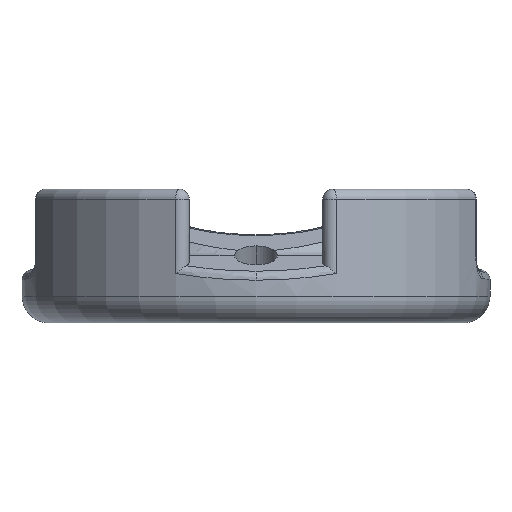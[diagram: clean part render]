
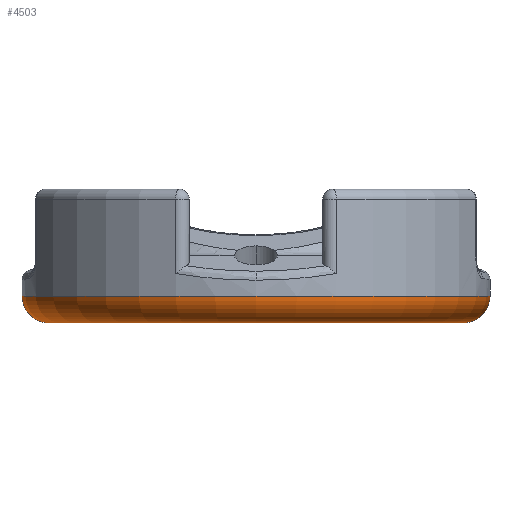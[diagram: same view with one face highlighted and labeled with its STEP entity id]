
A CAD part, front view. The second image highlights one B-rep face of the part: STEP entity #4503.
In plain terms, the highlighted toroidal (fillet/blend) face has major radius 15.5 mm and minor radius 2 mm.
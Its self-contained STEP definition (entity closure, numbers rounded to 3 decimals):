
#99 = AXIS2_PLACEMENT_3D ( 'NONE', #1359, #4085, #4472 ) ;
#149 = CIRCLE ( 'NONE', #4744, 2. ) ;
#240 = CARTESIAN_POINT ( 'NONE',  ( -17.5, 0., 7. ) ) ;
#263 = ORIENTED_EDGE ( 'NONE', *, *, #2308, .F. ) ;
#274 = CARTESIAN_POINT ( 'NONE',  ( 17.5, 0., 7. ) ) ;
#289 = CARTESIAN_POINT ( 'NONE',  ( 15.5, 0., 7. ) ) ;
#540 = VERTEX_POINT ( 'NONE', #274 ) ;
#556 = CARTESIAN_POINT ( 'NONE',  ( 0., 0., 5. ) ) ;
#677 = DIRECTION ( 'NONE',  ( -1., 0., 0. ) ) ;
#785 = CARTESIAN_POINT ( 'NONE',  ( -15.5, 0., 5. ) ) ;
#955 = DIRECTION ( 'NONE',  ( -1., 0., 0. ) ) ;
#1236 = ORIENTED_EDGE ( 'NONE', *, *, #2671, .T. ) ;
#1359 = CARTESIAN_POINT ( 'NONE',  ( 0., 0., 7. ) ) ;
#1551 = AXIS2_PLACEMENT_3D ( 'NONE', #2298, #5022, #2691 ) ;
#1960 = EDGE_CURVE ( 'NONE', #4374, #2448, #2116, .T. ) ;
#2116 = CIRCLE ( 'NONE', #4260, 15.5 ) ;
#2198 = FACE_OUTER_BOUND ( 'NONE', #3023, .T. ) ;
#2221 = DIRECTION ( 'NONE',  ( 0., -1., 0. ) ) ;
#2298 = CARTESIAN_POINT ( 'NONE',  ( 0., 0., 7. ) ) ;
#2308 = EDGE_CURVE ( 'NONE', #540, #4374, #3103, .T. ) ;
#2448 = VERTEX_POINT ( 'NONE', #785 ) ;
#2671 = EDGE_CURVE ( 'NONE', #3366, #2448, #149, .T. ) ;
#2691 = DIRECTION ( 'NONE',  ( -1., 0., 0. ) ) ;
#2815 = CARTESIAN_POINT ( 'NONE',  ( 15.5, 0., 5. ) ) ;
#3022 = DIRECTION ( 'NONE',  ( 0., 1., 0. ) ) ;
#3023 = EDGE_LOOP ( 'NONE', ( #263, #3608, #1236, #4983 ) ) ;
#3103 = CIRCLE ( 'NONE', #3535, 2. ) ;
#3225 = TOROIDAL_SURFACE ( 'NONE', #99, 15.5, 2. ) ;
#3297 = DIRECTION ( 'NONE',  ( 0., 0., -1. ) ) ;
#3366 = VERTEX_POINT ( 'NONE', #240 ) ;
#3535 = AXIS2_PLACEMENT_3D ( 'NONE', #289, #3022, #677 ) ;
#3608 = ORIENTED_EDGE ( 'NONE', *, *, #5013, .F. ) ;
#4085 = DIRECTION ( 'NONE',  ( 0., 0., -1. ) ) ;
#4260 = AXIS2_PLACEMENT_3D ( 'NONE', #556, #3297, #955 ) ;
#4374 = VERTEX_POINT ( 'NONE', #2815 ) ;
#4472 = DIRECTION ( 'NONE',  ( -1., 0., 0. ) ) ;
#4503 = ADVANCED_FACE ( 'NONE', ( #2198 ), #3225, .T. ) ;
#4536 = CARTESIAN_POINT ( 'NONE',  ( -15.5, 0., 7. ) ) ;
#4628 = CIRCLE ( 'NONE', #1551, 17.5 ) ;
#4744 = AXIS2_PLACEMENT_3D ( 'NONE', #4536, #2221, #4943 ) ;
#4943 = DIRECTION ( 'NONE',  ( 0., 0., -1. ) ) ;
#4983 = ORIENTED_EDGE ( 'NONE', *, *, #1960, .F. ) ;
#5013 = EDGE_CURVE ( 'NONE', #3366, #540, #4628, .T. ) ;
#5022 = DIRECTION ( 'NONE',  ( 0., 0., 1. ) ) ;
